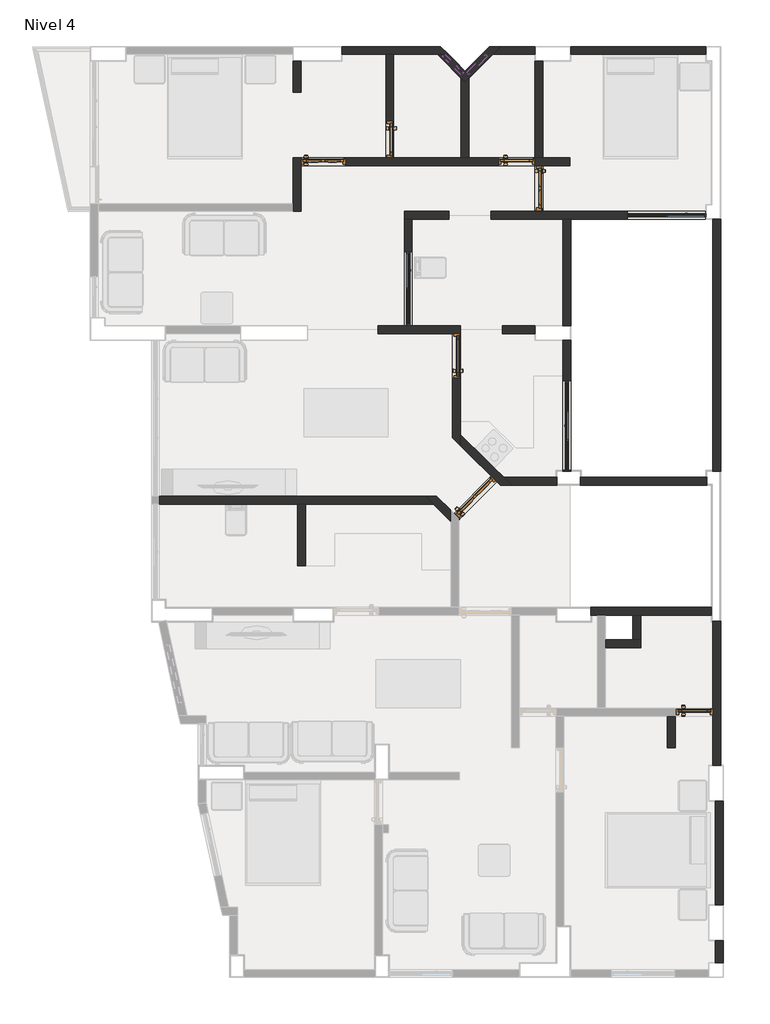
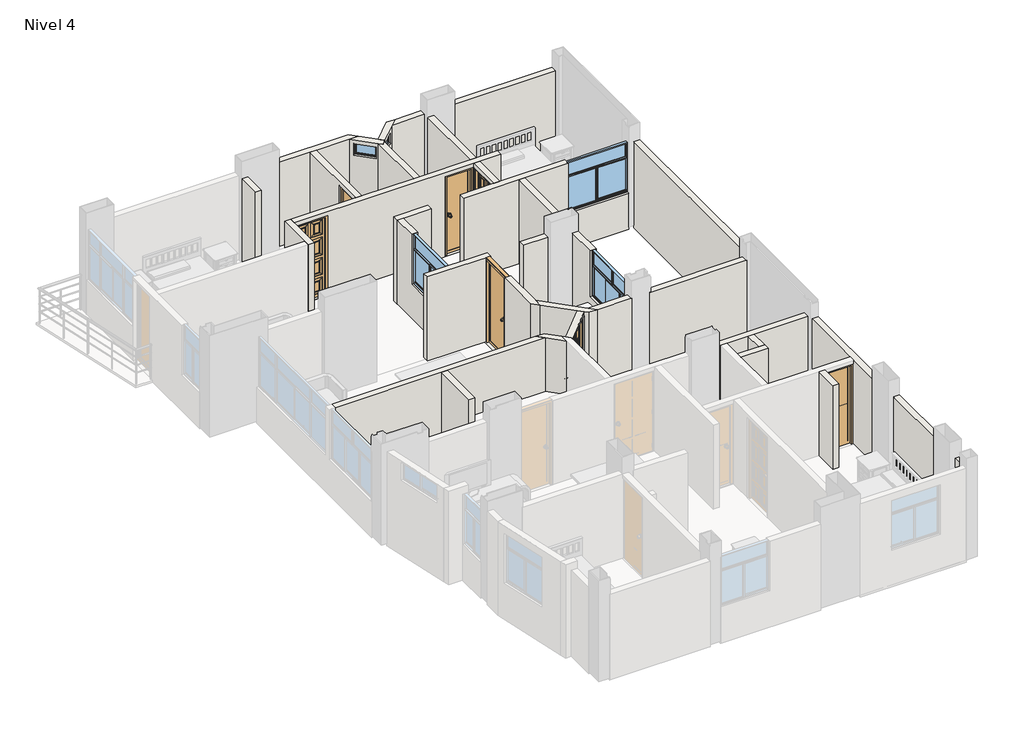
# One storey, part 2 of 4: 34 walls, 7 doors, 5 windows.
"""IFC4 building model written with IfcOpenShell, lengths in millimetres."""

from ifc_helpers import new_model, si_unit, frame, origin, place, context, project, spatial, polyline, outline, extrude, faceted_brep, transform, mapped, element, save
from components import door_81789954, door_be1cc8a4, door_cacd1893, door_2d542328, door_b74d320c, door_1edce65c, puerta_interior_pi_0_85x2_10_m_9cadf999, puerta_interior_pi_0_85x2_10_m_c76ccc0d, puerta_interior_pi_0_85x2_10_m_f933acae, puerta_interior_pi_0_85x2_10_m_d21131e5, puerta_interior_pi_1_00x2_10_m_83b77251, puerta_interior_pi_1_00x2_10_m_a31ecc94, puerta_interior_pi_1_00x2_10_m_514a608a, puerta_interior_pi_1_00x2_10_m_a5189380, vb_1_40x1_30_m_7c4907bb, vb_1_50x1_30_m_f73e4b78, vb_1_70x1_20_m_a559326e, ventana_alta_1_cuerpo_va_0_50x0_30_m_a0596043

model = new_model("IFC4")

# Units and contexts
model_context = context("Model", 3, world=origin())
ifc_project = project(units=[si_unit("LENGTHUNIT", "METRE", prefix="MILLI")], contexts=[model_context])

# Site, building, storey
site = spatial("IfcSite", under=ifc_project)
building = spatial("IfcBuilding", under=site)
storey = spatial("IfcBuildingStorey", under=building, Name="Nivel 4", Elevation=8100.0)

# Doors
placement = place(None, origin())
door_shape = door_81789954(model_context)
door_2_shape = door_be1cc8a4(model_context)
door_3_shape = door_cacd1893(model_context)
element("IfcDoor", 1, ObjectType="Puerta contraplacada : Puerta contraplacada 0.7x2.10 m", at=placement, inside=storey, context=model_context, shape_type="MappedRepresentation", body=[
    mapped(door_shape, transform((8815.0, 5025.0, 8100.0), x_axis=(-1.0, 0.0, 0.0), y_axis=(0.0, -1.0, 0.0), z_axis=(0.0, 0.0, 1.0))),
    mapped(door_2_shape, transform((8815.0, 5025.0, 8100.0), x_axis=(-1.0, 0.0, 0.0), y_axis=(0.0, -1.0, 0.0), z_axis=(0.0, 0.0, 1.0))),
    mapped(door_3_shape, transform((8815.0, 5025.0, 8100.0), x_axis=(-1.0, 0.0, 0.0), y_axis=(0.0, -1.0, 0.0), z_axis=(0.0, 0.0, 1.0))),
])
element("IfcDoor", 2, ObjectType="Puerta contraplacada : Puerta contraplacada 0.7x2.10 m", at=placement, inside=storey, context=model_context, shape_type="MappedRepresentation", body=[
    mapped(door_shape, transform((5435.0, 15475.0, 8100.0), x_axis=(-1.0, 0.0, 0.0), y_axis=(0.0, -1.0, 0.0), z_axis=(0.0, 0.0, 1.0))),
    mapped(door_2_shape, transform((5435.0, 15475.0, 8100.0), x_axis=(-1.0, 0.0, 0.0), y_axis=(0.0, -1.0, 0.0), z_axis=(0.0, 0.0, 1.0))),
    mapped(door_3_shape, transform((5435.0, 15475.0, 8100.0), x_axis=(-1.0, 0.0, 0.0), y_axis=(0.0, -1.0, 0.0), z_axis=(0.0, 0.0, 1.0))),
])
element("IfcDoor", 3, ObjectType="Puerta contraplacada : Puerta contraplacada 0.7x2.10 m", at=placement, inside=storey, context=model_context, shape_type="MappedRepresentation", body=[
    mapped(door_shape, transform((3024.905684, 15900.0, 8100.0), x_axis=(0.0, 1.0, 0.0), y_axis=(-1.0, 0.0, 0.0), z_axis=(0.0, 0.0, 1.0))),
    mapped(door_2_shape, transform((3024.905684, 15900.0, 8100.0), x_axis=(0.0, 1.0, 0.0), y_axis=(-1.0, 0.0, 0.0), z_axis=(0.0, 0.0, 1.0))),
    mapped(door_3_shape, transform((3024.905684, 15900.0, 8100.0), x_axis=(0.0, 1.0, 0.0), y_axis=(-1.0, 0.0, 0.0), z_axis=(0.0, 0.0, 1.0))),
])
door_4_shape = door_2d542328(model_context)
door_5_shape = door_b74d320c(model_context)
door_6_shape = door_1edce65c(model_context)
element("IfcDoor", 4, ObjectType="Puerta contraplacada Vaiven : Puerta contraplacada 0.85x2.10 m", at=placement, inside=storey, context=model_context, shape_type="MappedRepresentation", body=[
    mapped(door_4_shape, transform((4295.0005808, 11790.0, 8100.0), x_axis=(0.0, -1.0, 0.0), y_axis=(1.0, 0.0, 0.0), z_axis=(0.0, 0.0, 1.0))),
    mapped(door_5_shape, transform((4295.0005808, 11790.0, 8100.0), x_axis=(0.0, -1.0, 0.0), y_axis=(1.0, 0.0, 0.0), z_axis=(0.0, 0.0, 1.0))),
    mapped(door_6_shape, transform((4295.0005808, 11790.0, 8100.0), x_axis=(0.0, -1.0, 0.0), y_axis=(1.0, 0.0, 0.0), z_axis=(0.0, 0.0, 1.0))),
])
puerta_interior_pi_0_85x2_10_m_shape = puerta_interior_pi_0_85x2_10_m_9cadf999(model_context)
puerta_interior_pi_0_85x2_10_m_2_shape = puerta_interior_pi_0_85x2_10_m_c76ccc0d(model_context)
puerta_interior_pi_0_85x2_10_m_3_shape = puerta_interior_pi_0_85x2_10_m_f933acae(model_context)
puerta_interior_pi_0_85x2_10_m_4_shape = puerta_interior_pi_0_85x2_10_m_d21131e5(model_context)
element("IfcDoor", 5, ObjectType="Puerta Interior : PI_0.85x2.10 m", at=placement, inside=storey, context=model_context, shape_type="MappedRepresentation", body=[
    mapped(puerta_interior_pi_0_85x2_10_m_shape, transform((1760.0, 15475.0, 8100.0), x_axis=(-1.0, 0.0, 0.0), y_axis=(0.0, -1.0, 0.0), z_axis=(0.0, 0.0, 1.0))),
    mapped(puerta_interior_pi_0_85x2_10_m_2_shape, transform((1760.0, 15475.0, 8100.0), x_axis=(-1.0, 0.0, 0.0), y_axis=(0.0, -1.0, 0.0), z_axis=(0.0, 0.0, 1.0))),
    mapped(puerta_interior_pi_0_85x2_10_m_3_shape, transform((1760.0, 15475.0, 8100.0), x_axis=(-1.0, 0.0, 0.0), y_axis=(0.0, -1.0, 0.0), z_axis=(0.0, 0.0, 1.0))),
    mapped(puerta_interior_pi_0_85x2_10_m_4_shape, transform((1760.0, 15475.0, 8100.0), x_axis=(-1.0, 0.0, 0.0), y_axis=(0.0, -1.0, 0.0), z_axis=(0.0, 0.0, 1.0))),
])
element("IfcDoor", 6, ObjectType="Puerta Interior : PI_0.85x2.10 m", at=placement, inside=storey, context=model_context, shape_type="MappedRepresentation", body=[
    mapped(puerta_interior_pi_0_85x2_10_m_shape, transform((5860.0, 14975.0, 8100.0), x_axis=(0.0, 1.0, 0.0), y_axis=(-1.0, 0.0, 0.0), z_axis=(0.0, 0.0, 1.0))),
    mapped(puerta_interior_pi_0_85x2_10_m_2_shape, transform((5860.0, 14975.0, 8100.0), x_axis=(0.0, 1.0, 0.0), y_axis=(-1.0, 0.0, 0.0), z_axis=(0.0, 0.0, 1.0))),
    mapped(puerta_interior_pi_0_85x2_10_m_3_shape, transform((5860.0, 14975.0, 8100.0), x_axis=(0.0, 1.0, 0.0), y_axis=(-1.0, 0.0, 0.0), z_axis=(0.0, 0.0, 1.0))),
    mapped(puerta_interior_pi_0_85x2_10_m_4_shape, transform((5860.0, 14975.0, 8100.0), x_axis=(0.0, 1.0, 0.0), y_axis=(-1.0, 0.0, 0.0), z_axis=(0.0, 0.0, 1.0))),
])
puerta_interior_pi_1_00x2_10_m_shape = puerta_interior_pi_1_00x2_10_m_83b77251(model_context)
puerta_interior_pi_1_00x2_10_m_2_shape = puerta_interior_pi_1_00x2_10_m_a31ecc94(model_context)
puerta_interior_pi_1_00x2_10_m_3_shape = puerta_interior_pi_1_00x2_10_m_514a608a(model_context)
puerta_interior_pi_1_00x2_10_m_4_shape = puerta_interior_pi_1_00x2_10_m_a5189380(model_context)
element("IfcDoor", 7, ObjectType="Puerta Interior : PI_1.00x2.10 m", at=placement, inside=storey, context=model_context, shape_type="MappedRepresentation", body=[
    mapped(puerta_interior_pi_1_00x2_10_m_shape, transform((4654.8981784, 9101.2074272, 8100.0), x_axis=(-0.702923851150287, -0.7112651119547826, 0.0), y_axis=(0.7112651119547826, -0.702923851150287, 0.0), z_axis=(0.0, 0.0, 1.0))),
    mapped(puerta_interior_pi_1_00x2_10_m_2_shape, transform((4654.8981784, 9101.2074272, 8100.0), x_axis=(-0.702923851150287, -0.7112651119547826, 0.0), y_axis=(0.7112651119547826, -0.702923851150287, 0.0), z_axis=(0.0, 0.0, 1.0))),
    mapped(puerta_interior_pi_1_00x2_10_m_3_shape, transform((4654.8981784, 9101.2074272, 8100.0), x_axis=(-0.702923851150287, -0.7112651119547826, 0.0), y_axis=(0.7112651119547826, -0.702923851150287, 0.0), z_axis=(0.0, 0.0, 1.0))),
    mapped(puerta_interior_pi_1_00x2_10_m_4_shape, transform((4654.8981784, 9101.2074272, 8100.0), x_axis=(-0.702923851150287, -0.7112651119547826, 0.0), y_axis=(0.7112651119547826, -0.702923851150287, 0.0), z_axis=(0.0, 0.0, 1.0))),
])

# Walls
element("IfcWall", 8, ObjectType="AMS_Muro Interior-Exterior, e=15 cm", at=placement, inside=storey, context=model_context, shape_type="Brep", body=[
    faceted_brep([(2115.0, 17515.0, 8050.0), (2949.905684, 17515.0, 8050.0), (3099.905684, 17515.0, 8050.0), (3927.8210981, 17515.0, 8050.0), (4139.9531324, 17515.0, 8050.0), (4139.9531324, 17515.0, 9900.0), (4062.8463512, 17515.0, 9900.0), (4062.8463512, 17515.0, 10200.0), (4139.9531324, 17515.0, 10200.0), (4139.9531324, 17515.0, 10300.0), (3927.8210981, 17515.0, 10300.0), (3099.905684, 17515.0, 10300.0), (2949.905684, 17515.0, 10300.0), (2115.0, 17515.0, 10300.0), (3989.9531324, 17665.0, 8050.0), (2115.0, 17665.0, 8050.0), (2115.0, 17665.0, 8100.0), (2115.0, 17665.0, 10300.0), (3989.9531324, 17665.0, 10300.0), (4101.3997418, 17553.5533906, 10200.0), (4101.3997418, 17553.5533906, 9900.0)], [[[0, 1, 2, 3, 4, 5, 6, 7, 8, 9, 10, 11, 12, 13]], [[14, 15, 16, 17, 18]], [[4, 3, 2, 1, 0, 15, 14]], [[13, 12, 11, 10, 9, 18, 17]], [[0, 13, 17, 16, 15]], [[4, 14, 18, 9, 8, 19, 20, 5]], [[7, 19, 8]], [[19, 7, 6, 20]], [[20, 6, 5]]]),
])
element("IfcWall", 9, ObjectType="AMS_Muro Interior-Exterior, e=15 cm", at=placement, inside=storey, context=model_context, shape_type="Brep", body=[
    faceted_brep([(3927.8210981, 17515.0, 8050.0), (4379.9531324, 17062.8679656, 8050.0), (4454.9531324, 16987.8679656, 8050.0), (4454.9531324, 16987.8679656, 10300.0), (4379.9531324, 17062.8679656, 10300.0), (3927.8210981, 17515.0, 10300.0), (4348.8871152, 17093.9339828, 10200.0), (4348.8871152, 17093.9339828, 9900.0), (3995.3337246, 17447.4873734, 9900.0), (3995.3337246, 17447.4873734, 10200.0), (4561.0191496, 17093.9339828, 8050.0), (4454.9531324, 17200.0, 8050.0), (4139.9531324, 17515.0, 8050.0), (4139.9531324, 17515.0, 9900.0), (4454.9531324, 17200.0, 9900.0), (4454.9531324, 17200.0, 10200.0), (4139.9531324, 17515.0, 10200.0), (4139.9531324, 17515.0, 10300.0), (4454.9531324, 17200.0, 10300.0), (4561.0191496, 17093.9339828, 10300.0), (4561.0191496, 17093.9339828, 10200.0), (4561.0191496, 17093.9339828, 9900.0), (4529.9531324, 17062.8679656, 8050.0), (4529.9531324, 17062.8679656, 10300.0), (4062.8463512, 17515.0, 10200.0), (4062.8463512, 17515.0, 9900.0)], [[[0, 1, 2, 3, 4, 5], [6, 7, 8, 9]], [[10, 11, 12, 13, 14, 15, 16, 17, 18, 19, 20, 21]], [[2, 1, 0, 12, 11, 10, 22]], [[5, 4, 3, 23, 19, 18, 17]], [[0, 5, 17, 16, 24, 25, 13, 12]], [[3, 2, 22, 10, 21, 20, 19, 23]], [[14, 7, 6, 15]], [[15, 6, 9, 24, 16]], [[24, 9, 8, 25]], [[7, 14, 13, 25, 8]]]),
])
element("IfcWall", 10, ObjectType="AMS_Muro Interior-Exterior, e=15 cm", at=placement, inside=storey, context=model_context, shape_type="Brep", body=[
    faceted_brep([(4914.5725402, 17447.4873734, 9900.0), (4561.0191496, 17093.9339828, 9900.0), (4561.0191496, 17093.9339828, 8050.0), (4982.0851668, 17515.0, 8050.0), (5132.0851668, 17665.0, 8050.0), (5132.0851668, 17665.0, 10300.0), (4982.0851668, 17515.0, 10300.0), (4561.0191496, 17093.9339828, 10300.0), (4561.0191496, 17093.9339828, 10200.0), (4914.5725402, 17447.4873734, 10200.0), (4454.9531324, 17200.0, 8050.0), (4454.9531324, 17200.0, 9900.0), (4808.506523, 17553.5533906, 9900.0), (4808.506523, 17553.5533906, 10200.0), (4454.9531324, 17200.0, 10200.0), (4454.9531324, 17200.0, 10300.0), (4919.9531324, 17665.0, 10300.0), (4919.9531324, 17665.0, 8050.0)], [[[0, 1, 2, 3, 4, 5, 6, 7, 8, 9]], [[10, 11, 12, 13, 14, 15, 16, 17]], [[4, 3, 2, 10, 17]], [[7, 6, 5, 16, 15]], [[8, 7, 15, 14]], [[2, 1, 11, 10]], [[5, 4, 17, 16]], [[13, 12, 0, 9]], [[14, 13, 9, 8]], [[12, 11, 1, 0]]]),
])
element("IfcWall", 11, ObjectType="AMS_Muro Interior-Exterior, e=15 cm", at=placement, inside=storey, context=model_context, shape_type="Brep", body=[
    faceted_brep([(4982.0851668, 17515.0, 8050.0), (5785.0, 17515.0, 8050.0), (5785.0, 17515.0, 10300.0), (4982.0851668, 17515.0, 10300.0), (5132.0851668, 17665.0, 8050.0), (5132.0851668, 17665.0, 10300.0), (5785.0, 17665.0, 10300.0), (5785.0, 17665.0, 8100.0), (5785.0, 17665.0, 8050.0)], [[[0, 1, 2, 3]], [[4, 5, 6, 7, 8]], [[1, 0, 4, 8]], [[2, 1, 8, 7, 6]], [[3, 2, 6, 5]], [[0, 3, 5, 4]]]),
])
element("IfcWall", 12, ObjectType="AMS_Muro Interior-Exterior, e=15 cm", at=placement, inside=storey, context=model_context, shape_type="Brep", body=[
    faceted_brep([(6465.0, 17515.0, 8050.0), (9035.0, 17515.0, 8050.0), (9035.0, 17515.0, 10300.0), (6465.0, 17515.0, 10300.0), (6465.0, 17665.0, 8050.0), (6465.0, 17665.0, 8100.0), (6465.0, 17665.0, 10300.0), (9035.0, 17665.0, 10300.0), (9035.0, 17665.0, 8100.0), (9035.0, 17665.0, 8050.0)], [[[0, 1, 2, 3]], [[4, 5, 6, 7, 8, 9]], [[1, 0, 4, 9]], [[2, 1, 9, 8, 7]], [[3, 2, 7, 6]], [[0, 3, 6, 5, 4]]]),
])
element("IfcWall", 13, ObjectType="AMS_Muro Interior-Interior, e=15 cm", at=placement, inside=storey, context=model_context, shape_type="SweptSolid", body=[
    extrude(outline(polyline([(4379.9531324, 15550.0), (4379.9531324, 17062.8679656), (4454.9531324, 16987.8679656), (4529.9531324, 17062.8679656), (4529.9531324, 15550.0), (4379.9531324, 15550.0)])), frame((0.0, 0.0, 8050.0), z_axis=(0.0, 0.0, 1.0), x_axis=(1.0, 0.0, 0.0)), (0.0, 0.0, 1.0), 2250.0),
])
element("IfcWall", 14, ObjectType="AMS_Muro Interior-Interior, e=15 cm", at=placement, inside=storey, context=model_context, shape_type="Brep", body=[
    faceted_brep([(1185.0, 17385.0, 8050.0), (1185.0, 16800.0, 8050.0), (1185.0, 16800.0, 10300.0), (1185.0, 17385.0, 10300.0), (1185.0, 17385.0, 8100.0), (1335.0, 17385.0, 8050.0), (1335.0, 17385.0, 10300.0), (1335.0, 16800.0, 10300.0), (1335.0, 16800.0, 8050.0)], [[[0, 1, 2, 3, 4]], [[5, 6, 7, 8]], [[1, 0, 5, 8]], [[2, 1, 8, 7]], [[3, 2, 7, 6]], [[0, 4, 3, 6, 5]]]),
])
element("IfcWall", 15, ObjectType="AMS_Muro Interior-Interior, e=15 cm", at=placement, inside=storey, context=model_context, shape_type="Brep", body=[
    faceted_brep([(1185.0, 15550.0, 8050.0), (1185.0, 14683.4801072, 8050.0), (1185.0, 14533.4801072, 8050.0), (1185.0, 14533.4801072, 10300.0), (1185.0, 14683.4801072, 10300.0), (1185.0, 15550.0, 10300.0), (1335.0, 15550.0, 8050.0), (1335.0, 15550.0, 8100.0), (1335.0, 15550.0, 10200.0), (1335.0, 15550.0, 10300.0), (1335.0, 15400.0, 10300.0), (1335.0, 14533.4801072, 10300.0), (1335.0, 14533.4801072, 8050.0), (1335.0, 15400.0, 8050.0)], [[[0, 1, 2, 3, 4, 5]], [[6, 7, 8, 9, 10, 11, 12, 13]], [[2, 1, 0, 6, 13, 12]], [[5, 4, 3, 11, 10, 9]], [[3, 2, 12, 11]], [[0, 5, 9, 8, 7, 6]]]),
])
element("IfcWall", 16, ObjectType="AMS_Muro Interior-Interior, e=15 cm", at=placement, inside=storey, context=model_context, shape_type="Brep", body=[
    faceted_brep([(1335.0, 15400.0, 10300.0), (1335.0, 15400.0, 10200.0), (2185.0, 15400.0, 10200.0), (2185.0, 15400.0, 8100.0), (1335.0, 15400.0, 8100.0), (1335.0, 15400.0, 8050.0), (5785.0, 15400.0, 8050.0), (5935.0, 15400.0, 8050.0), (6450.0, 15400.0, 8050.0), (6450.0, 15400.0, 10300.0), (5935.0, 15400.0, 10300.0), (5785.0, 15400.0, 10300.0), (5085.0, 15400.0, 8100.0), (5085.0, 15400.0, 10200.0), (5785.0, 15400.0, 10200.0), (5785.0, 15400.0, 8100.0), (2185.0, 15550.0, 10200.0), (1335.0, 15550.0, 10200.0), (1335.0, 15550.0, 10300.0), (2949.905684, 15550.0, 10300.0), (3099.905684, 15550.0, 10300.0), (4379.9531324, 15550.0, 10300.0), (4529.9531324, 15550.0, 10300.0), (5785.0, 15550.0, 10300.0), (5935.0, 15550.0, 10300.0), (6450.0, 15550.0, 10300.0), (6450.0, 15550.0, 8050.0), (5935.0, 15550.0, 8050.0), (5785.0, 15550.0, 8050.0), (4529.9531324, 15550.0, 8050.0), (4379.9531324, 15550.0, 8050.0), (3099.905684, 15550.0, 8050.0), (2949.905684, 15550.0, 8050.0), (1335.0, 15550.0, 8050.0), (1335.0, 15550.0, 8100.0), (2185.0, 15550.0, 8100.0), (5085.0, 15550.0, 8100.0), (5785.0, 15550.0, 8100.0), (5785.0, 15550.0, 10200.0), (5085.0, 15550.0, 10200.0)], [[[0, 1, 2, 3, 4, 5, 6, 7, 8, 9, 10, 11], [12, 13, 14, 15]], [[16, 17, 18, 19, 20, 21, 22, 23, 24, 25, 26, 27, 28, 29, 30, 31, 32, 33, 34, 35], [36, 37, 38, 39]], [[8, 7, 6, 5, 33, 32, 31, 30, 29, 28, 27, 26]], [[9, 8, 26, 25]], [[0, 11, 10, 9, 25, 24, 23, 22, 21, 20, 19, 18]], [[34, 33, 5, 4]], [[18, 17, 1, 0]], [[13, 12, 36, 39]], [[14, 13, 39, 38]], [[15, 14, 38, 37]], [[12, 15, 37, 36]], [[2, 1, 17, 16]], [[3, 2, 16, 35]], [[4, 3, 35, 34]]]),
])
element("IfcWall", 17, ObjectType="AMS_Muro Interior-Interior, e=15 cm", at=placement, inside=storey, context=model_context, shape_type="Brep", body=[
    faceted_brep([(5935.0, 17385.0, 8050.0), (5935.0, 17385.0, 10300.0), (5935.0, 15550.0, 10300.0), (5935.0, 15550.0, 8050.0), (5785.0, 17385.0, 10300.0), (5785.0, 17385.0, 8100.0), (5785.0, 17385.0, 8050.0), (5785.0, 15550.0, 8050.0), (5785.0, 15550.0, 8100.0), (5785.0, 15550.0, 10200.0), (5785.0, 15550.0, 10300.0)], [[[0, 1, 2, 3]], [[4, 5, 6, 7, 8, 9, 10]], [[6, 0, 3, 7]], [[1, 0, 6, 5, 4]], [[1, 4, 10, 2]], [[3, 2, 10, 9, 8, 7]]]),
    faceted_brep([(5935.0, 14535.0, 10300.0), (5935.0, 14535.0, 8050.0), (5935.0, 15400.0, 8050.0), (5935.0, 15400.0, 8100.0), (5935.0, 14550.0, 8100.0), (5935.0, 14550.0, 10200.0), (5935.0, 15400.0, 10200.0), (5935.0, 15400.0, 10300.0), (5785.0, 14535.0, 8050.0), (5785.0, 14535.0, 10300.0), (5785.0, 15400.0, 10300.0), (5785.0, 15400.0, 10200.0), (5785.0, 14550.0, 10200.0), (5785.0, 14550.0, 8100.0), (5785.0, 15400.0, 8100.0), (5785.0, 15400.0, 8050.0)], [[[0, 1, 2, 3, 4, 5, 6, 7]], [[8, 9, 10, 11, 12, 13, 14, 15]], [[1, 8, 15, 2]], [[9, 0, 7, 10]], [[3, 2, 15, 14]], [[7, 6, 11, 10]], [[1, 0, 9, 8]], [[12, 11, 6, 5]], [[13, 12, 5, 4]], [[14, 13, 4, 3]]]),
])
element("IfcWall", 18, ObjectType="AMS_Muro Interior-Interior, e=15 cm", at=placement, inside=storey, context=model_context, shape_type="SweptSolid", body=[
    extrude(outline(polyline([(15550.0, 8050.0), (15550.0, 8100.0), (16250.0, 8100.0), (16250.0, 10200.0), (15550.0, 10200.0), (15550.0, 10300.0), (17515.0, 10300.0), (17515.0, 8050.0), (15550.0, 8050.0)])), frame((2949.905684, 0.0, 0.0), z_axis=(1.0, 0.0, 0.0), x_axis=(0.0, 1.0, 0.0)), (0.0, 0.0, 1.0), 150.0),
])
element("IfcWall", 19, ObjectType="AMS_Muro Interior-Interior, e=15 cm", at=placement, inside=storey, context=model_context, shape_type="Brep", body=[
    faceted_brep([(9035.0, 14535.0, 8050.0), (5935.0, 14535.0, 8050.0), (5785.0, 14535.0, 8050.0), (4950.0005808, 14535.0, 8050.0), (4950.0005808, 14535.0, 10300.0), (5785.0, 14535.0, 10300.0), (5935.0, 14535.0, 10300.0), (7535.0, 14535.0, 10300.0), (7535.0, 14535.0, 9000.0), (9035.0, 14535.0, 9000.0), (4950.0005808, 14385.0, 8050.0), (6315.0, 14385.0, 8050.0), (6465.0, 14385.0, 8050.0), (9035.0, 14385.0, 8050.0), (9035.0, 14385.0, 8100.0), (9035.0, 14385.0, 9000.0), (7535.0, 14385.0, 9000.0), (7535.0, 14385.0, 10300.0), (6465.0, 14385.0, 10300.0), (6315.0, 14385.0, 10300.0), (4950.0005808, 14385.0, 10300.0)], [[[0, 1, 2, 3, 4, 5, 6, 7, 8, 9]], [[10, 11, 12, 13, 14, 15, 16, 17, 18, 19, 20]], [[3, 2, 1, 0, 13, 12, 11, 10]], [[4, 3, 10, 20]], [[4, 20, 19, 18, 17, 7, 6, 5]], [[13, 0, 9, 15, 14]], [[16, 8, 7, 17]], [[8, 16, 15, 9]]]),
])
element("IfcWall", 20, ObjectType="AMS_Muro Interior-Interior, e=15 cm", at=placement, inside=storey, context=model_context, shape_type="Brep", body=[
    faceted_brep([(4150.0005808, 14535.0, 8050.0), (3300.0005808, 14535.0, 8050.0), (3300.0005808, 14535.0, 10300.0), (4150.0005808, 14535.0, 10300.0), (4150.0005808, 14385.0, 8050.0), (4150.0005808, 14385.0, 10300.0), (3450.0005808, 14385.0, 10300.0), (3300.0005808, 14385.0, 10300.0), (3300.0005808, 14385.0, 8050.0), (3450.0005808, 14385.0, 8050.0)], [[[0, 1, 2, 3]], [[4, 5, 6, 7, 8, 9]], [[1, 0, 4, 9, 8]], [[3, 2, 7, 6, 5]], [[0, 3, 5, 4]], [[2, 1, 8, 7]]]),
])
element("IfcWall", 21, ObjectType="AMS_Muro Interior-Interior, e=15 cm", at=placement, inside=storey, context=model_context, shape_type="SweptSolid", body=[
    extrude(outline(polyline([(14385.0, 8050.0), (12365.0, 8050.0), (12365.0, 9000.0), (13765.0, 9000.0), (13765.0, 10300.0), (14385.0, 10300.0), (14385.0, 8050.0)])), frame((3300.0005808, 0.0, 0.0), z_axis=(1.0, 0.0, 0.0), x_axis=(0.0, 1.0, 0.0)), (0.0, 0.0, 1.0), 150.0),
])
element("IfcWall", 22, ObjectType="AMS_Muro Interior-Interior, e=15 cm", at=placement, inside=storey, context=model_context, shape_type="Brep", body=[
    faceted_brep([(2800.0005808, 12215.0, 8050.0), (4220.0005808, 12215.0, 8050.0), (4370.0005808, 12215.0, 8050.0), (4370.0005808, 12215.0, 8100.0), (4370.0005808, 12215.0, 10300.0), (2800.0005808, 12215.0, 10300.0), (2800.0005808, 12365.0, 8050.0), (2800.0005808, 12365.0, 10300.0), (4370.0005808, 12365.0, 10300.0), (4370.0005808, 12365.0, 8050.0), (3450.0005808, 12365.0, 8050.0), (3300.0005808, 12365.0, 8050.0)], [[[0, 1, 2, 3, 4, 5]], [[6, 7, 8, 9, 10, 11]], [[2, 1, 0, 6, 11, 10, 9]], [[5, 4, 8, 7]], [[0, 5, 7, 6]], [[4, 3, 2, 9, 8]]]),
])
element("IfcWall", 23, ObjectType="AMS_Muro Interior-Interior, e=15 cm", at=placement, inside=storey, context=model_context, shape_type="Brep", body=[
    faceted_brep([(5785.0, 12365.0, 8050.0), (5170.094316, 12365.0, 8050.0), (5170.094316, 12365.0, 10300.0), (5785.0, 12365.0, 10300.0), (5785.0, 12365.0, 8100.0), (5785.0, 12215.0, 8050.0), (5785.0, 12215.0, 10300.0), (5170.094316, 12215.0, 10300.0), (5170.094316, 12215.0, 8050.0)], [[[0, 1, 2, 3, 4]], [[5, 6, 7, 8]], [[1, 0, 5, 8]], [[2, 1, 8, 7]], [[3, 2, 7, 6]], [[0, 4, 3, 6, 5]]]),
])
element("IfcWall", 24, ObjectType="AMS_Muro Interior-Interior, e=15 cm", at=placement, inside=storey, context=model_context, shape_type="Brep", body=[
    faceted_brep([(6315.0, 14385.0, 8050.0), (6315.0, 12365.0, 8050.0), (6315.0, 12365.0, 10300.0), (6315.0, 14385.0, 10300.0), (6465.0, 14385.0, 8050.0), (6465.0, 14385.0, 10300.0), (6465.0, 12365.0, 10300.0), (6465.0, 12365.0, 8100.0), (6465.0, 12365.0, 8050.0)], [[[0, 1, 2, 3]], [[4, 5, 6, 7, 8]], [[1, 0, 4, 8]], [[2, 1, 8, 7, 6]], [[3, 2, 6, 5]], [[0, 3, 5, 4]]]),
])
element("IfcWall", 25, ObjectType="AMS_Muro Interior-Interior, e=15 cm", at=placement, inside=storey, context=model_context, shape_type="Brep", body=[
    faceted_brep([(6465.0, 9615.0, 9100.0), (6465.0, 9615.0, 10300.0), (6465.0, 9600.0, 10300.0), (6465.0, 9600.0, 8100.0), (6465.0, 9600.0, 8050.0), (6465.0, 9615.0, 8050.0), (6465.0, 12085.0, 8050.0), (6465.0, 12085.0, 8100.0), (6465.0, 12085.0, 10300.0), (6465.0, 11315.0, 10300.0), (6465.0, 11315.0, 9100.0), (6315.0, 9600.0, 10300.0), (6315.0, 9615.0, 10300.0), (6315.0, 9615.0, 9100.0), (6315.0, 11315.0, 9100.0), (6315.0, 11315.0, 10300.0), (6315.0, 12085.0, 10300.0), (6315.0, 12085.0, 8050.0), (6315.0, 9615.0, 8050.0), (6315.0, 9600.0, 8050.0), (6315.0, 9600.0, 8100.0)], [[[0, 1, 2, 3, 4, 5, 6, 7, 8, 9, 10]], [[11, 12, 13, 14, 15, 16, 17, 18, 19, 20]], [[6, 5, 4, 19, 18, 17]], [[8, 7, 6, 17, 16]], [[9, 8, 16, 15]], [[2, 1, 12, 11]], [[4, 3, 2, 11, 20, 19]], [[15, 14, 10, 9]], [[13, 12, 1, 0]], [[14, 13, 0, 10]]]),
])
element("IfcWall", 26, ObjectType="AMS_Muro Interior-Interior, e=15 cm", at=placement, inside=storey, context=model_context, shape_type="Brep", body=[
    faceted_brep([(4220.0005808, 12215.0, 8050.0), (4220.0005808, 10233.7695247, 8050.0), (4220.0005808, 10233.7695247, 10300.0), (4220.0005808, 11365.0, 10300.0), (4220.0005808, 11365.0, 8100.0), (4220.0005808, 12215.0, 8100.0), (4370.0005808, 10085.8895972, 8050.0), (4370.0005808, 10296.5278486, 8050.0), (4370.0005808, 12215.0, 8050.0), (4370.0005808, 12215.0, 8100.0), (4370.0005808, 11365.0, 8100.0), (4370.0005808, 11365.0, 10300.0), (4370.0005808, 10296.5278486, 10300.0), (4370.0005808, 10085.8895972, 10300.0)], [[[0, 1, 2, 3, 4, 5]], [[6, 7, 8, 9, 10, 11, 12, 13]], [[1, 0, 8, 7, 6]], [[2, 13, 12, 11, 3]], [[2, 1, 6, 13]], [[8, 0, 5, 9]], [[10, 4, 3, 11]], [[4, 10, 9, 5]]]),
])
element("IfcWall", 27, ObjectType="AMS_Muro Interior-Interior, e=15 cm", at=placement, inside=storey, context=model_context, shape_type="Brep", body=[
    faceted_brep([(4370.0005808, 10085.8895972, 8050.0), (4953.7940571, 9510.3473507, 8050.0), (5060.6123419, 9405.038816, 8050.0), (5131.6552655, 9335.0, 8050.0), (5131.6552655, 9335.0, 10300.0), (5060.6123419, 9405.038816, 10300.0), (4953.7940571, 9510.3473507, 10300.0), (4370.0005808, 10085.8895972, 10300.0), (4370.0005808, 10296.5278486, 8050.0), (4370.0005808, 10296.5278486, 10300.0), (5193.1628539, 9485.0, 10300.0), (5345.3133207, 9335.0, 10300.0), (5345.3133207, 9335.0, 8050.0), (5193.1628539, 9485.0, 8050.0)], [[[0, 1, 2, 3, 4, 5, 6, 7]], [[8, 9, 10, 11, 12, 13]], [[3, 2, 1, 0, 8, 13, 12]], [[7, 6, 5, 4, 11, 10, 9]], [[0, 7, 9, 8]], [[4, 3, 12, 11]]]),
])
element("IfcWall", 28, ObjectType="AMS_Muro Interior-Interior, e=15 cm", at=placement, inside=storey, context=model_context, shape_type="Brep", body=[
    faceted_brep([(6200.0, 9485.0, 8050.0), (6185.0, 9485.0, 8050.0), (5193.1628539, 9485.0, 8050.0), (5193.1628539, 9485.0, 10300.0), (6185.0, 9485.0, 10300.0), (6200.0, 9485.0, 10300.0), (6200.0, 9485.0, 8100.0), (6200.0, 9335.0, 8050.0), (6200.0, 9335.0, 8100.0), (6200.0, 9335.0, 10300.0), (6185.0, 9335.0, 10300.0), (5345.3133207, 9335.0, 10300.0), (5345.3133207, 9335.0, 8050.0), (6185.0, 9335.0, 8050.0), (6200.0, 9350.0, 8050.0), (6200.0, 9350.0, 10300.0)], [[[0, 1, 2, 3, 4, 5, 6]], [[7, 8, 9, 10, 11, 12, 13]], [[2, 1, 0, 14, 7, 13, 12]], [[5, 4, 3, 11, 10, 9, 15]], [[0, 6, 5, 15, 9, 8, 7, 14]], [[3, 2, 12, 11]]]),
])
element("IfcWall", 29, ObjectType="AMS_Muro Interior-Interior, e=15 cm", at=placement, inside=storey, context=model_context, shape_type="Brep", body=[
    faceted_brep([(4185.0, 8855.2632339, 8050.0), (3915.2632339, 9125.0, 8050.0), (3915.2632339, 9125.0, 10300.0), (4185.0, 8855.2632339, 10300.0), (4185.0, 8643.1311996, 8050.0), (4185.0, 8643.1311996, 10300.0), (3853.1311996, 8975.0, 10300.0), (3703.1311996, 9125.0, 10300.0), (3703.1311996, 9125.0, 8050.0), (3853.1311996, 8975.0, 8050.0)], [[[0, 1, 2, 3]], [[4, 5, 6, 7, 8, 9]], [[1, 0, 4, 9, 8]], [[3, 2, 7, 6, 5]], [[0, 3, 5, 4]], [[2, 1, 8, 7]]]),
])
element("IfcWall", 30, ObjectType="AMS_Muro Interior-Interior, e=15 cm", at=placement, inside=storey, context=model_context, shape_type="Brep", body=[
    faceted_brep([(3703.1311996, 9125.0, 8050.0), (-1355.0, 9125.0, 8050.0), (-1355.0, 9125.0, 10300.0), (3703.1311996, 9125.0, 10300.0), (3853.1311996, 8975.0, 8050.0), (3853.1311996, 8975.0, 10300.0), (1425.0005808, 8975.0, 10300.0), (1275.0005808, 8975.0, 10300.0), (-1355.0, 8975.0, 10300.0), (-1355.0, 8975.0, 8050.0), (1275.0005808, 8975.0, 8050.0), (1425.0005808, 8975.0, 8050.0)], [[[0, 1, 2, 3]], [[4, 5, 6, 7, 8, 9, 10, 11]], [[1, 0, 4, 11, 10, 9]], [[3, 2, 8, 7, 6, 5]], [[0, 3, 5, 4]], [[2, 1, 9, 8]]]),
])
element("IfcWall", 31, ObjectType="AMS_Muro Interior-Interior, e=15 cm", at=placement, inside=storey, context=model_context, shape_type="Brep", body=[
    faceted_brep([(4335.0, 8670.8159799, 8050.0), (5060.6123419, 9405.038816, 8050.0), (5060.6123419, 9405.038816, 10300.0), (4335.0, 8670.8159799, 10300.0), (4356.7811363, 8692.8555824, 8100.0), (4356.7811363, 8692.8555824, 10200.0), (5059.7049874, 9404.1206944, 10200.0), (5059.7049874, 9404.1206944, 8100.0), (4246.0541754, 8794.2090586, 8050.0), (4246.0541754, 8794.2090586, 10300.0), (4953.7940571, 9510.3473507, 10300.0), (4953.7940571, 9510.3473507, 8050.0), (4250.0913695, 8798.2941601, 8100.0), (4953.0152206, 9509.5592721, 8100.0), (4953.0152206, 9509.5592721, 10200.0), (4250.0913695, 8798.2941601, 10200.0), (4335.0, 8705.2632339, 8050.0), (4335.0, 8705.2632339, 10300.0)], [[[0, 1, 2, 3], [4, 5, 6, 7]], [[8, 9, 10, 11], [12, 13, 14, 15]], [[1, 0, 16, 8, 11]], [[3, 2, 10, 9, 17]], [[0, 3, 17, 16]], [[2, 1, 11, 10]], [[5, 4, 12, 15]], [[6, 5, 15, 14]], [[7, 6, 14, 13]], [[4, 7, 13, 12]], [[17, 9, 8, 16]]]),
])
element("IfcWall", 32, ObjectType="AMS_Muro Interior-Interior, e=15 cm", at=placement, inside=storey, context=model_context, shape_type="Brep", body=[
    faceted_brep([(9135.0, 7015.0, 8050.0), (6865.0, 7015.0, 8050.0), (6850.0, 7015.0, 8050.0), (6850.0, 7015.0, 8100.0), (6850.0, 7015.0, 10300.0), (6865.0, 7015.0, 10300.0), (9135.0, 7015.0, 10300.0), (9135.0, 6865.0, 8050.0), (9135.0, 6865.0, 10300.0), (7798.1159652, 6865.0, 10300.0), (7648.1159652, 6865.0, 10300.0), (7123.0216492, 6865.0, 10300.0), (6973.0216492, 6865.0, 10300.0), (6865.0, 6865.0, 10300.0), (6850.0, 6865.0, 10300.0), (6850.0, 6865.0, 8100.0), (6850.0, 6865.0, 8050.0), (6865.0, 6865.0, 8050.0), (6973.0216492, 6865.0, 8050.0), (7123.0216492, 6865.0, 8050.0), (7648.1159652, 6865.0, 8050.0), (7798.1159652, 6865.0, 8050.0), (6850.0, 7000.0, 8050.0), (6850.0, 7000.0, 10300.0)], [[[0, 1, 2, 3, 4, 5, 6]], [[7, 8, 9, 10, 11, 12, 13, 14, 15, 16, 17, 18, 19, 20, 21]], [[2, 1, 0, 7, 21, 20, 19, 18, 17, 16, 22]], [[4, 3, 2, 22, 16, 15, 14, 23]], [[6, 5, 4, 23, 14, 13, 12, 11, 10, 9, 8]], [[0, 6, 8, 7]]]),
])
element("IfcWall", 33, ObjectType="AMS_Muro Interior-Interior, e=15 cm", at=placement, inside=storey, context=model_context, shape_type="Brep", body=[
    faceted_brep([(7123.0216492, 6250.0, 8050.0), (7798.1159652, 6250.0, 8050.0), (7798.1159652, 6250.0, 10300.0), (7123.0216492, 6250.0, 10300.0), (7123.0216492, 6400.0, 8050.0), (7123.0216492, 6400.0, 10300.0), (7648.1159652, 6400.0, 10300.0), (7798.1159652, 6400.0, 10300.0), (7798.1159652, 6400.0, 8050.0), (7648.1159652, 6400.0, 8050.0)], [[[0, 1, 2, 3]], [[4, 5, 6, 7, 8, 9]], [[1, 0, 4, 9, 8]], [[3, 2, 7, 6, 5]], [[0, 3, 5, 4]], [[2, 1, 8, 7]]]),
])
element("IfcWall", 34, ObjectType="AMS_Muro Interior-Interior, e=15 cm", at=placement, inside=storey, context=model_context, shape_type="SweptSolid", body=[
    extrude(outline(polyline([(7798.1159652, 6865.0), (7798.1159652, 6400.0), (7648.1159652, 6400.0), (7648.1159652, 6865.0), (7798.1159652, 6865.0)])), frame((0.0, 0.0, 8050.0), z_axis=(0.0, 0.0, 1.0), x_axis=(1.0, 0.0, 0.0)), (0.0, 0.0, 1.0), 2250.0),
])
element("IfcWall", 35, ObjectType="AMS_Muro Interior-Exterior, e=15 cm", at=placement, inside=storey, context=model_context, shape_type="Brep", body=[
    faceted_brep([(9165.0, 14385.0, 8050.0), (9165.0, 9615.0, 8050.0), (9165.0, 9600.0, 8050.0), (9165.0, 9600.0, 8100.0), (9165.0, 9600.0, 10300.0), (9165.0, 9615.0, 10300.0), (9165.0, 14385.0, 10300.0), (9315.0, 14385.0, 8050.0), (9315.0, 14385.0, 8100.0), (9315.0, 14385.0, 10300.0), (9315.0, 9615.0, 10300.0), (9315.0, 9600.0, 10300.0), (9315.0, 9600.0, 8100.0), (9315.0, 9600.0, 8050.0), (9315.0, 9615.0, 8050.0), (9300.0, 9600.0, 8050.0), (9300.0, 9600.0, 10300.0)], [[[0, 1, 2, 3, 4, 5, 6]], [[7, 8, 9, 10, 11, 12, 13, 14]], [[2, 1, 0, 7, 14, 13, 15]], [[4, 3, 2, 15, 13, 12, 11, 16]], [[6, 5, 4, 16, 11, 10, 9]], [[0, 6, 9, 8, 7]]]),
])
element("IfcWall", 36, ObjectType="AMS_Muro Interior-Exterior, e=15 cm", at=placement, inside=storey, context=model_context, shape_type="Brep", body=[
    faceted_brep([(9165.0, 6750.0, 8050.0), (9165.0, 6735.0, 8050.0), (9165.0, 5100.0, 8050.0), (9165.0, 4950.0, 8050.0), (9165.0, 4015.0, 8050.0), (9165.0, 4015.0, 10300.0), (9165.0, 4950.0, 10300.0), (9165.0, 5100.0, 10300.0), (9165.0, 6735.0, 10300.0), (9165.0, 6750.0, 10300.0), (9165.0, 6750.0, 8100.0), (9315.0, 6750.0, 8050.0), (9315.0, 6750.0, 8100.0), (9315.0, 6750.0, 10300.0), (9315.0, 6735.0, 10300.0), (9315.0, 4015.0, 10300.0), (9315.0, 4015.0, 8050.0), (9315.0, 6735.0, 8050.0), (9300.0, 6750.0, 8050.0), (9300.0, 6750.0, 10300.0)], [[[0, 1, 2, 3, 4, 5, 6, 7, 8, 9, 10]], [[11, 12, 13, 14, 15, 16, 17]], [[4, 3, 2, 1, 0, 18, 11, 17, 16]], [[5, 4, 16, 15]], [[9, 8, 7, 6, 5, 15, 14, 13, 19]], [[0, 10, 9, 19, 13, 12, 11, 18]]]),
])
element("IfcWall", 37, ObjectType="AMS_Muro Interior-Interior, e=15 cm", at=placement, inside=storey, context=model_context, shape_type="SweptSolid", body=[
    extrude(outline(polyline([(1275.0005808, 7800.0), (1275.0005808, 8975.0), (1425.0005808, 8975.0), (1425.0005808, 7800.0), (1275.0005808, 7800.0)])), frame((0.0, 0.0, 8050.0), z_axis=(0.0, 0.0, 1.0), x_axis=(1.0, 0.0, 0.0)), (0.0, 0.0, 1.0), 2250.0),
])
element("IfcWall", 38, ObjectType="AMS_Muro Interior-Interior, e=15 cm", at=placement, inside=storey, context=model_context, shape_type="SweptSolid", body=[
    extrude(outline(polyline([(8300.0, 4349.9856618), (8300.0, 4950.0), (8450.0, 4950.0), (8450.0, 4349.9856618), (8300.0, 4349.9856618)])), frame((0.0, 0.0, 8050.0), z_axis=(0.0, 0.0, 1.0), x_axis=(1.0, 0.0, 0.0)), (0.0, 0.0, 1.0), 2250.0),
])
element("IfcWall", 39, ObjectType="AMS_Muro Interior-Interior, e=15 cm", at=placement, inside=storey, context=model_context, shape_type="Brep", body=[
    faceted_brep([(6650.0, 9335.0, 8050.0), (6665.0, 9335.0, 8050.0), (9035.0, 9335.0, 8050.0), (9050.0, 9335.0, 8050.0), (9050.0, 9335.0, 8100.0), (9050.0, 9335.0, 10300.0), (9035.0, 9335.0, 10300.0), (6665.0, 9335.0, 10300.0), (6650.0, 9335.0, 10300.0), (6650.0, 9335.0, 8100.0), (6650.0, 9485.0, 8050.0), (6650.0, 9485.0, 8100.0), (6650.0, 9485.0, 10300.0), (6665.0, 9485.0, 10300.0), (9035.0, 9485.0, 10300.0), (9050.0, 9485.0, 10300.0), (9050.0, 9485.0, 8100.0), (9050.0, 9485.0, 8050.0), (9035.0, 9485.0, 8050.0), (6665.0, 9485.0, 8050.0), (6650.0, 9350.0, 8050.0), (9050.0, 9350.0, 8050.0), (9050.0, 9350.0, 10300.0), (6650.0, 9350.0, 10300.0)], [[[0, 1, 2, 3, 4, 5, 6, 7, 8, 9]], [[10, 11, 12, 13, 14, 15, 16, 17, 18, 19]], [[3, 2, 1, 0, 20, 10, 19, 18, 17, 21]], [[5, 4, 3, 21, 17, 16, 15, 22]], [[8, 7, 6, 5, 22, 15, 14, 13, 12, 23]], [[0, 9, 8, 23, 12, 11, 10, 20]]]),
])
element("IfcWall", 40, ObjectType="AMS_Muro Interior-Exterior, e=15 cm", at=placement, inside=storey, context=model_context, shape_type="Brep", body=[
    faceted_brep([(9365.0, 1365.0, 8050.0), (9365.0, 3335.0, 8050.0), (9365.0, 3335.0, 8100.0), (9365.0, 3335.0, 10300.0), (9365.0, 1365.0, 10300.0), (9365.0, 1365.0, 8100.0), (9215.0, 1365.0, 8050.0), (9215.0, 1365.0, 10300.0), (9215.0, 3335.0, 10300.0), (9215.0, 3335.0, 8050.0)], [[[0, 1, 2, 3, 4, 5]], [[6, 7, 8, 9]], [[1, 0, 6, 9]], [[3, 2, 1, 9, 8]], [[4, 3, 8, 7]], [[0, 5, 4, 7, 6]]]),
])
element("IfcWall", 41, ObjectType="AMS_Muro Interior-Exterior, e=15 cm", at=placement, inside=storey, context=model_context, shape_type="Brep", body=[
    faceted_brep([(9215.0, 685.0, 8050.0), (9215.0, 265.0, 8050.0), (9215.0, 265.0, 10300.0), (9215.0, 685.0, 10300.0), (9365.0, 685.0, 8050.0), (9365.0, 685.0, 8100.0), (9365.0, 685.0, 10300.0), (9365.0, 265.0, 10300.0), (9365.0, 265.0, 8100.0), (9365.0, 265.0, 8050.0)], [[[0, 1, 2, 3]], [[4, 5, 6, 7, 8, 9]], [[1, 0, 4, 9]], [[2, 1, 9, 8, 7]], [[3, 2, 7, 6]], [[0, 3, 6, 5, 4]]]),
])

# Windows
vb_1_40x1_30_m_shape = vb_1_40x1_30_m_7c4907bb(model_context)
element("IfcWindow", 42, ObjectType="Ventana baja corrediza 2 cuerpos : VB 1.40X1.30 m", at=placement, inside=storey, context=model_context, shape_type="MappedRepresentation", body=[
    mapped(vb_1_40x1_30_m_shape, transform((3375.0005808, 13065.0, 8100.0), x_axis=(0.0, -1.0, 0.0), y_axis=(1.0, 0.0, 0.0), z_axis=(0.0, 0.0, 1.0))),
])
vb_1_50x1_30_m_shape = vb_1_50x1_30_m_f73e4b78(model_context)
element("IfcWindow", 43, ObjectType="Ventana baja corrediza 2 cuerpos : VB 1.50X1.30 m", at=placement, inside=storey, context=model_context, shape_type="MappedRepresentation", body=[
    mapped(vb_1_50x1_30_m_shape, transform((8285.0, 14460.0, 8100.0), x_axis=(-1.0, 0.0, 0.0), y_axis=(0.0, -1.0, 0.0), z_axis=(0.0, 0.0, 1.0))),
])
vb_1_70x1_20_m_shape = vb_1_70x1_20_m_a559326e(model_context)
element("IfcWindow", 44, ObjectType="Ventana baja corrediza 3 cuerpos : VB 1.70x1.20 m", at=placement, inside=storey, context=model_context, shape_type="MappedRepresentation", body=[
    mapped(vb_1_70x1_20_m_shape, transform((6390.0, 10465.0, 8200.0), x_axis=(0.0, -1.0, 0.0), y_axis=(1.0, 0.0, 0.0), z_axis=(0.0, 0.0, 1.0))),
])
ventana_alta_1_cuerpo_va_0_50x0_30_m_shape = ventana_alta_1_cuerpo_va_0_50x0_30_m_a0596043(model_context)
element("IfcWindow", 45, ObjectType="Ventana alta 1 cuerpo : VA 0.50x0.30 m", at=placement, inside=storey, context=model_context, shape_type="MappedRepresentation", body=[
    mapped(ventana_alta_1_cuerpo_va_0_50x0_30_m_shape, transform((4225.1434285, 17323.7436867, 8300.0), x_axis=(-0.7071067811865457, 0.7071067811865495, 0.0), y_axis=(-0.7071067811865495, -0.7071067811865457, 0.0), z_axis=(0.0, 0.0, 1.0))),
])
element("IfcWindow", 46, ObjectType="Ventana alta 1 cuerpo : VA 0.50x0.30 m", at=placement, inside=storey, context=model_context, shape_type="MappedRepresentation", body=[
    mapped(ventana_alta_1_cuerpo_va_0_50x0_30_m_shape, transform((4684.7628363, 17323.7436867, 8300.0), x_axis=(-0.7071067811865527, -0.7071067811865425, 0.0), y_axis=(0.7071067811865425, -0.7071067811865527, 0.0), z_axis=(0.0, 0.0, 1.0))),
])

save(model, "model.ifc")
